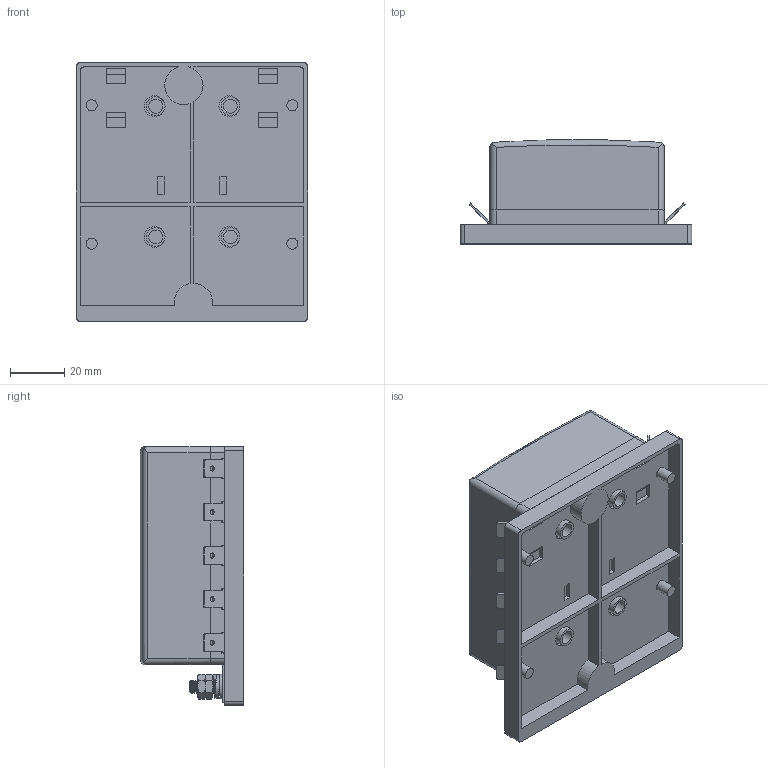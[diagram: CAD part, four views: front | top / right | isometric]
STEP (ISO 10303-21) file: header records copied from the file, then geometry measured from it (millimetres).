
FILE_DESCRIPTION(/* description */ (''),/* implementation_level */ '2;1');
FILE_NAME(/* name */ 'C:\Users\Hani\Desktop\work\BLM-310\BLM-I-310.stp',/* time_stamp */ '2021-07-07T11:03:54-07:00',/* author */ ('Hani'),/* organization */ (''),/* preprocessor_version */ 'ST-DEVELOPER v17',/* originating_system */ 'Autodesk Inventor 2019',/* authorisation */ '');
FILE_SCHEMA (('AUTOMOTIVE_DESIGN { 1 0 10303 214 3 1 1 }'));
Length unit declared in the file: inch
Products named in the file (11): BLM-I-310; BLR-I-310-G_base; BLM-I-310-BLOCK; plate2; terminal; terminal_MIR2; STUD; HEX NUT; LOCK WASHER; WASHER; cover
Assembly tree (19 placements, depth 2):
  BLM-I-310
    BLR-I-310-G_base
    BLM-I-310-BLOCK
    plate2
    terminal  x5
    terminal_MIR2  x5
    STUD
    HEX NUT  x2
    LOCK WASHER
    WASHER
    cover
Bounding box: 85.09 x 38.12 x 95 mm (x, y, z)
Volume: 109985.3 mm3; surface area: 74073.9 mm2
Topology: 19 solids, 19 shells, 1286 faces, 3387 edges, 2206 vertices
Faces by surface type: plane 781, bspline 220, cylinder 182, cone 64, torus 23, sphere 16
Full cylindrical faces by diameter (mm): 1.905 x10, 3.769 x16, 3.795 x2, 4.064 x4, 4.801 x17, 4.826 x6, 4.953 x1, 5.08 x6, 6.858 x4, 7.62 x4, 8.992 x1, 9.779 x4
Entity records: 40779 total; most frequent: CARTESIAN_POINT 13921, ORIENTED_EDGE 5900, DIRECTION 4655, EDGE_CURVE 2950, LINE 2005, VECTOR 2005, VERTEX_POINT 1924, AXIS2_PLACEMENT_3D 1325
